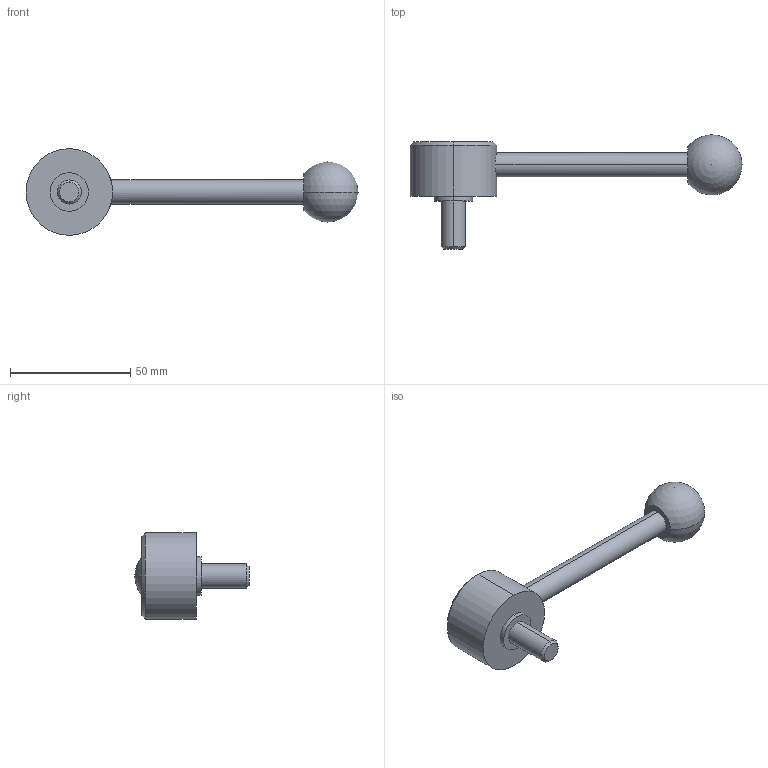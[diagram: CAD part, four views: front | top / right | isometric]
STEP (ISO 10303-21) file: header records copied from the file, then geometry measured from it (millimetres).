
FILE_DESCRIPTION (( 'STEP AP214' ), '1' );
FILE_NAME ('125.5-36-M10-20-D.step', '2020-02-18T11:29:36', ( '' ), ( '' ), 'SwSTEP 2.0', 'SolidWorks 2019', '' );
FILE_SCHEMA (( 'AUTOMOTIVE_DESIGN' ));
Length unit declared in the file: millimetre
Products named in the file (1): 125.5-36-M10-20-D
Bounding box: 138 x 47.5 x 36 mm (x, y, z)
Volume: 39042.9 mm3; surface area: 9494 mm2
Topology: 1 solids, 1 shells, 22 faces, 47 edges, 30 vertices
Faces by surface type: cylinder 10, plane 6, cone 4, sphere 2
Entity records: 738 total; most frequent: CARTESIAN_POINT 166, DIRECTION 112, ORIENTED_EDGE 84, AXIS2_PLACEMENT_3D 49, EDGE_CURVE 42, EDGE_LOOP 27, VERTEX_POINT 27, CIRCLE 26
